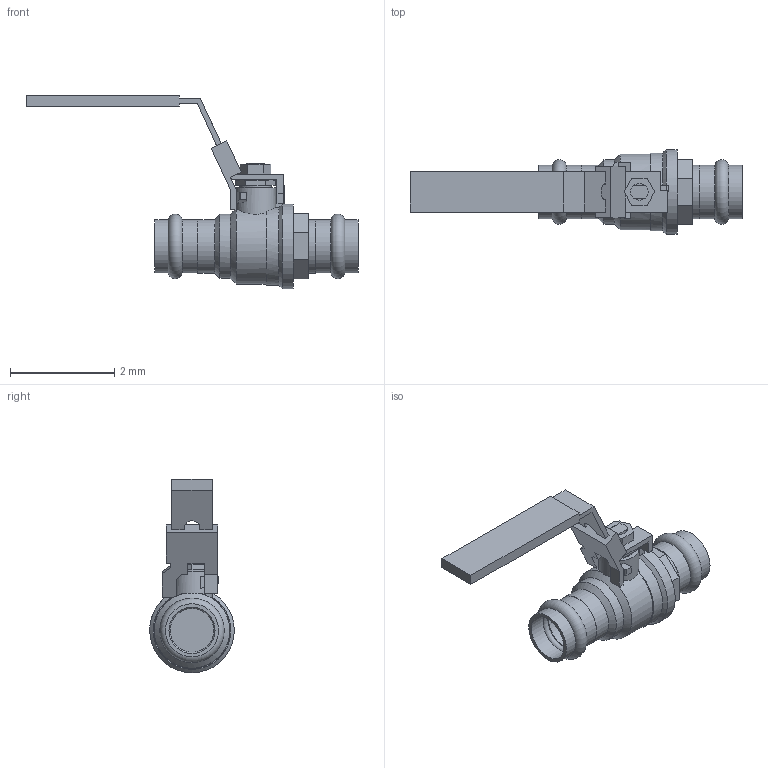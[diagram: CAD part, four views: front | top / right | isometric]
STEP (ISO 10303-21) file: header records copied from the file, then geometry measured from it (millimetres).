
FILE_DESCRIPTION(('Open CASCADE Model'),'2;1');
FILE_NAME('Open CASCADE Shape Model','2022-07-29T13:16:44',('Author'),( 'Open CASCADE'),'Open CASCADE STEP processor 7.3','Open CASCADE 7.3' ,'Unknown');
FILE_SCHEMA(('AUTOMOTIVE_DESIGN { 1 0 10303 214 1 1 1 1 }'));
Length unit declared in the file: millimetre
Products named in the file (4): Open CASCADE STEP translator 7.3 1; Open CASCADE STEP translator 7.3 1.1; Open CASCADE STEP translator 7.3 1.2; Open CASCADE STEP translator 7.3 1.3
Assembly tree (3 placements, depth 2):
  Open CASCADE STEP translator 7.3 1
    Open CASCADE STEP translator 7.3 1.1
    Open CASCADE STEP translator 7.3 1.2
    Open CASCADE STEP translator 7.3 1.3
Bounding box: 6.37 x 1.62 x 3.71 mm (x, y, z)
Volume: 4.3 mm3; surface area: 46.1 mm2
Topology: 3 solids, 3 shells, 131 faces, 359 edges, 239 vertices
Faces by surface type: plane 94, cylinder 28, torus 6, cone 3
Full cylindrical faces by diameter (mm): 0.42 x1, 0.435 x1, 0.61 x1, 0.885 x4, 1.02 x4, 1.025 x1, 1.03 x1, 1.23 x1, 1.625 x1
Entity records: 9625 total; most frequent: CARTESIAN_POINT 2397, DIRECTION 1337, LINE 879, VECTOR 879, ORIENTED_EDGE 718, PCURVE 718, DEFINITIONAL_REPRESENTATION 718, EDGE_CURVE 359
